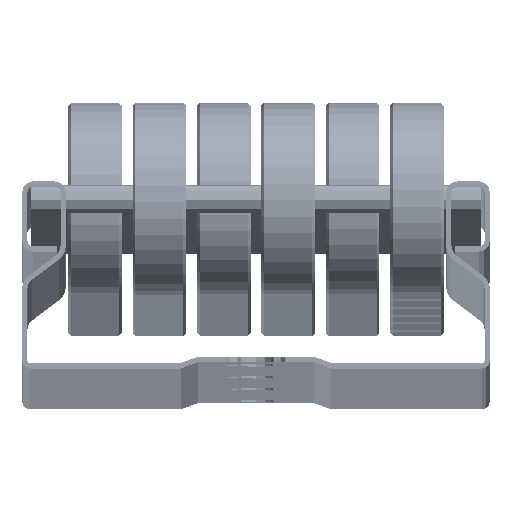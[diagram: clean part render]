
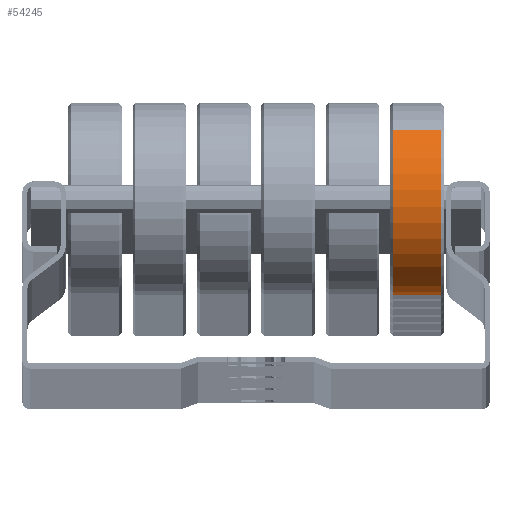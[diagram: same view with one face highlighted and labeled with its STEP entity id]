
A CAD part, top view. The second image highlights one B-rep face of the part: STEP entity #54245.
In plain terms, the highlighted cylindrical face has radius 16.5 mm (diameter 33 mm), a partial arc.
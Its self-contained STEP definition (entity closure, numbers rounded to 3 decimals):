
#6416 = DIRECTION ( 'NONE',  ( -1., 0., 0. ) ) ;
#18206 = AXIS2_PLACEMENT_3D ( 'NONE', #146125, #171539, #32419 ) ;
#21450 = FACE_OUTER_BOUND ( 'NONE', #105317, .T. ) ;
#22460 = VERTEX_POINT ( 'NONE', #100159 ) ;
#28424 = LINE ( 'NONE', #181679, #35999 ) ;
#32419 = DIRECTION ( 'NONE',  ( 0., 0., -1. ) ) ;
#33190 = ORIENTED_EDGE ( 'NONE', *, *, #45405, .F. ) ;
#35538 = DIRECTION ( 'NONE',  ( 0., 0., 1. ) ) ;
#35999 = VECTOR ( 'NONE', #142175, 1000. ) ;
#38891 = DIRECTION ( 'NONE',  ( -1., 0., 0. ) ) ;
#42591 = DIRECTION ( 'NONE',  ( 0., 0., 1. ) ) ;
#45187 = CIRCLE ( 'NONE', #18206, 16.5 ) ;
#45405 = EDGE_CURVE ( 'NONE', #134771, #22460, #28424, .T. ) ;
#46870 = CYLINDRICAL_SURFACE ( 'NONE', #146051, 16.5 ) ;
#54245 = ADVANCED_FACE ( 'NONE', ( #21450 ), #46870, .T. ) ;
#56677 = CIRCLE ( 'NONE', #161747, 16.5 ) ;
#75374 = LINE ( 'NONE', #132727, #143607 ) ;
#83383 = CARTESIAN_POINT ( 'NONE',  ( -4.1, 0., 16.5 ) ) ;
#83495 = EDGE_CURVE ( 'NONE', #166113, #22460, #45187, .T. ) ;
#83923 = CARTESIAN_POINT ( 'NONE',  ( 4.1, 0., 0. ) ) ;
#91904 = ORIENTED_EDGE ( 'NONE', *, *, #83495, .T. ) ;
#94589 = VERTEX_POINT ( 'NONE', #160504 ) ;
#100159 = CARTESIAN_POINT ( 'NONE',  ( -4.1, 0., -16.5 ) ) ;
#103868 = ORIENTED_EDGE ( 'NONE', *, *, #163482, .T. ) ;
#105317 = EDGE_LOOP ( 'NONE', ( #33190, #103868, #178941, #91904 ) ) ;
#105469 = DIRECTION ( 'NONE',  ( -1., 0., 0. ) ) ;
#132727 = CARTESIAN_POINT ( 'NONE',  ( 0., 0., 16.5 ) ) ;
#134771 = VERTEX_POINT ( 'NONE', #163877 ) ;
#142175 = DIRECTION ( 'NONE',  ( -1., 0., 0. ) ) ;
#143607 = VECTOR ( 'NONE', #105469, 1000. ) ;
#146051 = AXIS2_PLACEMENT_3D ( 'NONE', #179279, #6416, #35538 ) ;
#146125 = CARTESIAN_POINT ( 'NONE',  ( -4.1, 0., 0. ) ) ;
#160504 = CARTESIAN_POINT ( 'NONE',  ( 4.1, 0., 16.5 ) ) ;
#161747 = AXIS2_PLACEMENT_3D ( 'NONE', #83923, #38891, #42591 ) ;
#163482 = EDGE_CURVE ( 'NONE', #134771, #94589, #56677, .T. ) ;
#163877 = CARTESIAN_POINT ( 'NONE',  ( 4.1, 0., -16.5 ) ) ;
#166113 = VERTEX_POINT ( 'NONE', #83383 ) ;
#171539 = DIRECTION ( 'NONE',  ( 1., 0., 0. ) ) ;
#175690 = EDGE_CURVE ( 'NONE', #94589, #166113, #75374, .T. ) ;
#178941 = ORIENTED_EDGE ( 'NONE', *, *, #175690, .T. ) ;
#179279 = CARTESIAN_POINT ( 'NONE',  ( 0., 0., 0. ) ) ;
#181679 = CARTESIAN_POINT ( 'NONE',  ( 0., 0., -16.5 ) ) ;
